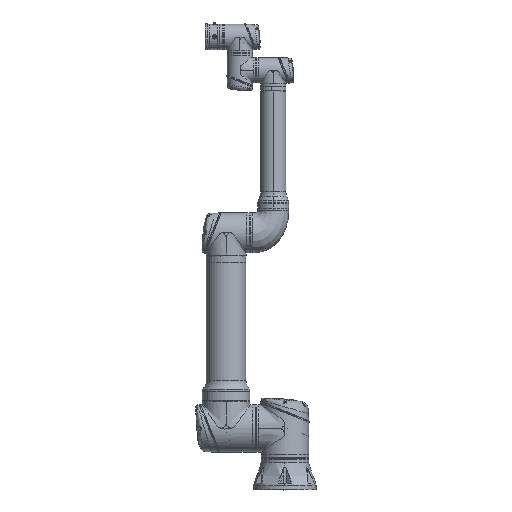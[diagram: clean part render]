
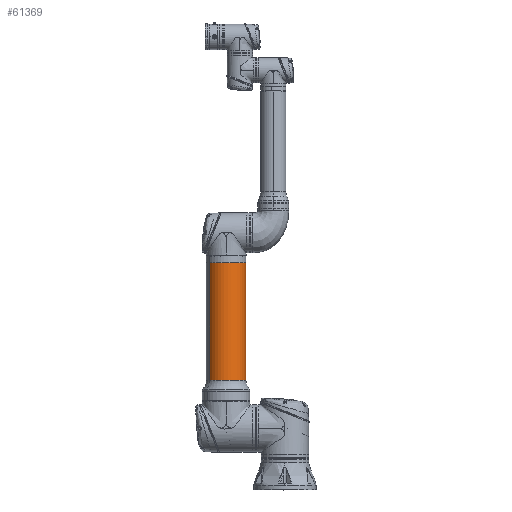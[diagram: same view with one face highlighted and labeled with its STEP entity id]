
A CAD part, top view. The second image highlights one B-rep face of the part: STEP entity #61369.
In plain terms, the highlighted cylindrical face has radius 76 mm (diameter 152 mm), a partial arc.
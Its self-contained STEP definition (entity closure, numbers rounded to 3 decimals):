
#3827 = DIRECTION ( 'NONE',  ( -0.568, 0., 0.823 ) ) ;
#7234 = CIRCLE ( 'NONE', #197143, 76. ) ;
#28177 = DIRECTION ( 'NONE',  ( 0., -1., 0. ) ) ;
#30257 = VECTOR ( 'NONE', #327737, 1000. ) ;
#33223 = ORIENTED_EDGE ( 'NONE', *, *, #117068, .T. ) ;
#35750 = AXIS2_PLACEMENT_3D ( 'NONE', #127696, #305283, #280892 ) ;
#47148 = ORIENTED_EDGE ( 'NONE', *, *, #129349, .F. ) ;
#61369 = ADVANCED_FACE ( 'NONE', ( #157028 ), #315832, .T. ) ;
#82920 = LINE ( 'NONE', #238102, #320739 ) ;
#98443 = VERTEX_POINT ( 'NONE', #233969 ) ;
#115717 = CARTESIAN_POINT ( 'NONE',  ( 43.158, -635.5, -62.557 ) ) ;
#117068 = EDGE_CURVE ( 'NONE', #227763, #120766, #7234, .T. ) ;
#117451 = LINE ( 'NONE', #326661, #30257 ) ;
#120766 = VERTEX_POINT ( 'NONE', #253799 ) ;
#123584 = DIRECTION ( 'NONE',  ( 0., 1., 0. ) ) ;
#127696 = CARTESIAN_POINT ( 'NONE',  ( 0., -97., 0. ) ) ;
#127981 = CARTESIAN_POINT ( 'NONE',  ( 0., -184.707, 0. ) ) ;
#129349 = EDGE_CURVE ( 'NONE', #227763, #98443, #82920, .T. ) ;
#133374 = CIRCLE ( 'NONE', #151863, 76. ) ;
#140393 = VERTEX_POINT ( 'NONE', #255642 ) ;
#149177 = DIRECTION ( 'NONE',  ( 0., 1., 0. ) ) ;
#151863 = AXIS2_PLACEMENT_3D ( 'NONE', #127981, #28177, #3827 ) ;
#156147 = ORIENTED_EDGE ( 'NONE', *, *, #236702, .T. ) ;
#157028 = FACE_OUTER_BOUND ( 'NONE', #315524, .T. ) ;
#174712 = DIRECTION ( 'NONE',  ( -0.568, 0., 0.823 ) ) ;
#197143 = AXIS2_PLACEMENT_3D ( 'NONE', #252491, #149177, #174712 ) ;
#227763 = VERTEX_POINT ( 'NONE', #115717 ) ;
#233969 = CARTESIAN_POINT ( 'NONE',  ( 43.158, -184.707, -62.557 ) ) ;
#236663 = EDGE_CURVE ( 'NONE', #120766, #140393, #117451, .T. ) ;
#236702 = EDGE_CURVE ( 'NONE', #140393, #98443, #133374, .T. ) ;
#238102 = CARTESIAN_POINT ( 'NONE',  ( 43.158, -97., -62.557 ) ) ;
#251840 = ORIENTED_EDGE ( 'NONE', *, *, #236663, .T. ) ;
#252491 = CARTESIAN_POINT ( 'NONE',  ( 0., -635.5, 0. ) ) ;
#253799 = CARTESIAN_POINT ( 'NONE',  ( -43.158, -635.5, 62.557 ) ) ;
#255642 = CARTESIAN_POINT ( 'NONE',  ( -43.158, -184.707, 62.557 ) ) ;
#280892 = DIRECTION ( 'NONE',  ( -0.568, 0., 0.823 ) ) ;
#305283 = DIRECTION ( 'NONE',  ( 0., 1., 0. ) ) ;
#315524 = EDGE_LOOP ( 'NONE', ( #47148, #33223, #251840, #156147 ) ) ;
#315832 = CYLINDRICAL_SURFACE ( 'NONE', #35750, 76. ) ;
#320739 = VECTOR ( 'NONE', #123584, 1000. ) ;
#326661 = CARTESIAN_POINT ( 'NONE',  ( -43.158, -97., 62.557 ) ) ;
#327737 = DIRECTION ( 'NONE',  ( 0., 1., 0. ) ) ;
